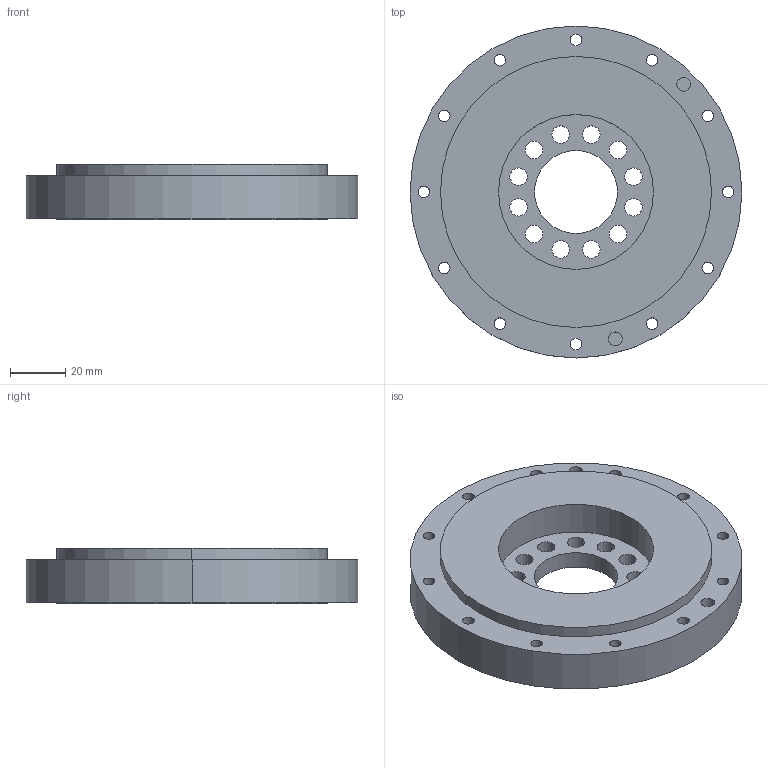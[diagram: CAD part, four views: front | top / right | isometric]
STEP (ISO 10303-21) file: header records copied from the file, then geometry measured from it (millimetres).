
FILE_DESCRIPTION (( 'STEP AP214' ), '1' );
FILE_NAME ('ST_32_base_dummy.STEP', '2023-09-07T12:21:49', ( '' ), ( '' ), 'SwSTEP 2.0', 'SolidWorks 2021', '' );
FILE_SCHEMA (( 'AUTOMOTIVE_DESIGN' ));
Length unit declared in the file: millimetre
Products named in the file (1): ST_32_base_dummy
Bounding box: 120 x 120 x 20 mm (x, y, z)
Volume: 165538.2 mm3; surface area: 34612.2 mm2
Topology: 1 solids, 1 shells, 78 faces, 204 edges, 136 vertices
Faces by surface type: cylinder 68, plane 10
Entity records: 2882 total; most frequent: DIRECTION 498, CARTESIAN_POINT 419, ORIENTED_EDGE 408, AXIS2_PLACEMENT_3D 215, EDGE_CURVE 204, EDGE_LOOP 136, CIRCLE 136, VERTEX_POINT 136
